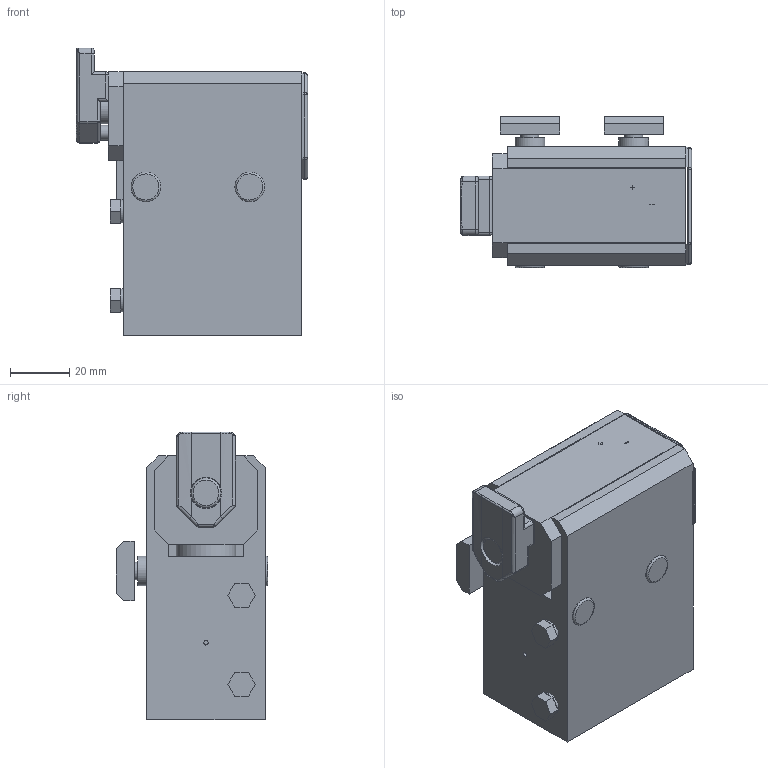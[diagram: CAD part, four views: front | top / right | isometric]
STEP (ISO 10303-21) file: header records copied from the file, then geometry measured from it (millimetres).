
FILE_DESCRIPTION(/* description */ (''),/* implementation_level */ '2;1');
FILE_NAME(/* name */ 'C:\Marketing\01_Versamove-SPU_STEP-Dateien-Homepage\Versamove plus\ASM-60_ohne_Sensor.stp',/* time_stamp */ '2016-12-22T15:26:42+01:00',/* author */ ('herbert.engels'),/* organization */ (''),/* preprocessor_version */ 'ST-DEVELOPER v15.6',/* originating_system */ 'Autodesk Inventor 2015',/* authorisation */ '');
FILE_SCHEMA (('CONFIG_CONTROL_DESIGN'));
Length unit declared in the file: millimetre
Products named in the file (1): ASM-60_ohne_Sensor
Bounding box: 77.9 x 51 x 97 mm (x, y, z)
Volume: 219157.7 mm3; surface area: 40452.2 mm2
Topology: 1 solids, 1 shells, 199 faces, 475 edges, 287 vertices
Faces by surface type: plane 109, cylinder 61, sphere 16, bspline 8, torus 5
Full cylindrical faces by diameter (mm): 1.5 x1, 5 x1, 6 x2, 7.8 x3, 10 x6, 10.6 x1, 20 x1
Entity records: 6215 total; most frequent: CARTESIAN_POINT 1453, DIRECTION 938, ORIENTED_EDGE 884, EDGE_CURVE 442, AXIS2_PLACEMENT_3D 320, LINE 298, VECTOR 298, VERTEX_POINT 282
